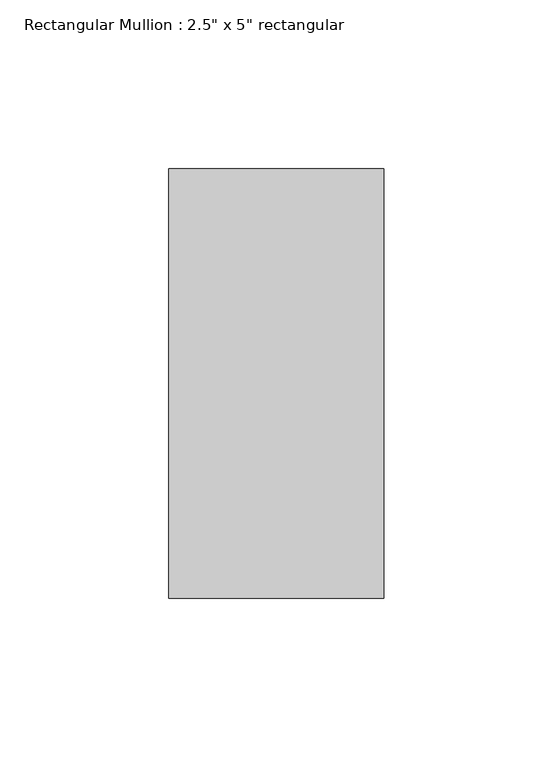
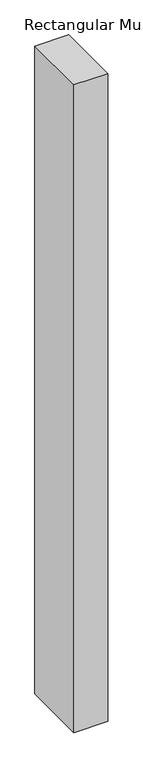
"""IFC4 building model written with IfcOpenShell, lengths in millimetres: member geometry."""

from ifc_helpers import new_model, si_unit, frame, origin, place, context, project, spatial, polyline, outline, extrude, source, transform, mapped, element, save


def member_2207bc7b(model_context):
    return source(origin(), model_context, "Body", "SweptSolid", [
        extrude(outline(polyline([(31.75, 50.8), (31.75, -76.2), (-31.75, -76.2), (-31.75, 50.8), (31.75, 50.8)])), frame((0.0, 0.0, -1287.4625), z_axis=(0.0, 0.0, 1.0), x_axis=(1.0, 0.0, 0.0)), (0.0, 0.0, 1.0), 1287.4625),
    ])


if __name__ == "__main__":
    model = new_model("IFC4")
    model_context = context("Model", 3, world=origin())
    ifc_project = project(units=[si_unit("LENGTHUNIT", "METRE", prefix="MILLI")], contexts=[model_context])
    site = spatial("IfcSite", under=ifc_project)
    building = spatial("IfcBuilding", under=site)
    placement = place(None, origin())
    member_shape = member_2207bc7b(model_context)
    element("IfcMember", 1, ObjectType="Rectangular Mullion : 2.5\" x 5\" rectangular", at=placement, inside=building, context=model_context, shape_type="MappedRepresentation", body=[
        mapped(member_shape, transform((0.0, 0.0, 0.0), x_axis=(1.0, 0.0, 0.0), y_axis=(0.0, 1.0, 0.0), z_axis=(0.0, 0.0, 1.0))),
    ])
    save(model, "model.ifc")
